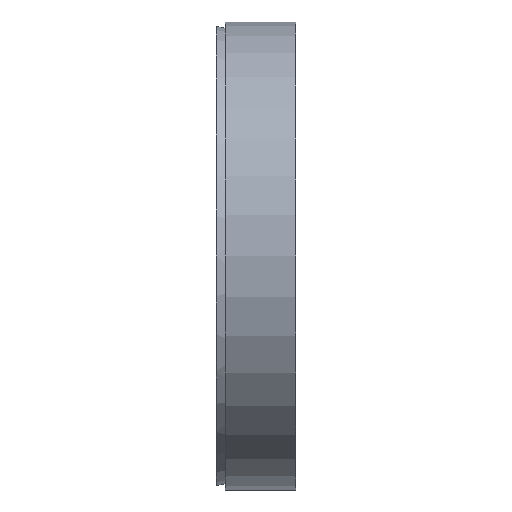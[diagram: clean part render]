
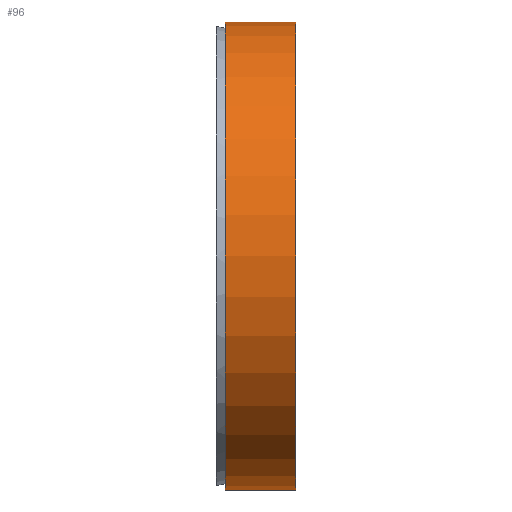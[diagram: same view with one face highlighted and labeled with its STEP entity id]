
A CAD part, front view. The second image highlights one B-rep face of the part: STEP entity #96.
In plain terms, the highlighted cylindrical face has radius 62 mm (diameter 124 mm), a partial arc.
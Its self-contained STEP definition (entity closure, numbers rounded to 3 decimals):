
#94 = ORIENTED_EDGE ( 'NONE', *, *, #95, .T. ) ;
#95 = EDGE_CURVE ( 'NONE', #120, #117, #187, .T. ) ;
#96 = ADVANCED_FACE ( 'NONE', ( #182 ), #181, .T. ) ;
#97 = EDGE_LOOP ( 'NONE', ( #105, #94, #106, #107 ) ) ;
#105 = ORIENTED_EDGE ( 'NONE', *, *, #122, .F. ) ;
#106 = ORIENTED_EDGE ( 'NONE', *, *, #145, .T. ) ;
#107 = ORIENTED_EDGE ( 'NONE', *, *, #108, .F. ) ;
#108 = EDGE_CURVE ( 'NONE', #123, #207, #219, .T. ) ;
#117 = VERTEX_POINT ( 'NONE', #356 ) ;
#120 = VERTEX_POINT ( 'NONE', #254 ) ;
#122 = EDGE_CURVE ( 'NONE', #120, #123, #253, .T. ) ;
#123 = VERTEX_POINT ( 'NONE', #336 ) ;
#145 = EDGE_CURVE ( 'NONE', #117, #207, #249, .T. ) ;
#176 = DIRECTION ( 'NONE',  ( 0., 0., 1. ) ) ;
#177 = DIRECTION ( 'NONE',  ( -1., 0., 0. ) ) ;
#178 = CARTESIAN_POINT ( 'NONE',  ( 0., 0., 0. ) ) ;
#179 = AXIS2_PLACEMENT_3D ( 'NONE', #178, #177, #176 ) ;
#181 = CYLINDRICAL_SURFACE ( 'NONE', #179, 62. ) ;
#182 = FACE_OUTER_BOUND ( 'NONE', #97, .T. ) ;
#183 = DIRECTION ( 'NONE',  ( 0., 0., 1. ) ) ;
#184 = DIRECTION ( 'NONE',  ( -1., 0., 0. ) ) ;
#185 = CARTESIAN_POINT ( 'NONE',  ( 21., 0., 0. ) ) ;
#186 = AXIS2_PLACEMENT_3D ( 'NONE', #185, #184, #183 ) ;
#187 = CIRCLE ( 'NONE', #186, 62. ) ;
#207 = VERTEX_POINT ( 'NONE', #318 ) ;
#219 = CIRCLE ( 'NONE', #221, 62. ) ;
#221 = AXIS2_PLACEMENT_3D ( 'NONE', #231, #230, #225 ) ;
#225 = DIRECTION ( 'NONE',  ( 0., 0., 1. ) ) ;
#230 = DIRECTION ( 'NONE',  ( -1., 0., 0. ) ) ;
#231 = CARTESIAN_POINT ( 'NONE',  ( 2.3, 0., 0. ) ) ;
#248 = CARTESIAN_POINT ( 'NONE',  ( 0., 0., 62. ) ) ;
#249 = LINE ( 'NONE', #248, #367 ) ;
#253 = LINE ( 'NONE', #345, #337 ) ;
#254 = CARTESIAN_POINT ( 'NONE',  ( 21., 0., -62. ) ) ;
#318 = CARTESIAN_POINT ( 'NONE',  ( 2.3, 0., 62. ) ) ;
#336 = CARTESIAN_POINT ( 'NONE',  ( 2.3, 0., -62. ) ) ;
#337 = VECTOR ( 'NONE', #344, 1000. ) ;
#344 = DIRECTION ( 'NONE',  ( -1., 0., 0. ) ) ;
#345 = CARTESIAN_POINT ( 'NONE',  ( 0., 0., -62. ) ) ;
#356 = CARTESIAN_POINT ( 'NONE',  ( 21., 0., 62. ) ) ;
#366 = DIRECTION ( 'NONE',  ( -1., 0., 0. ) ) ;
#367 = VECTOR ( 'NONE', #366, 1000. ) ;
